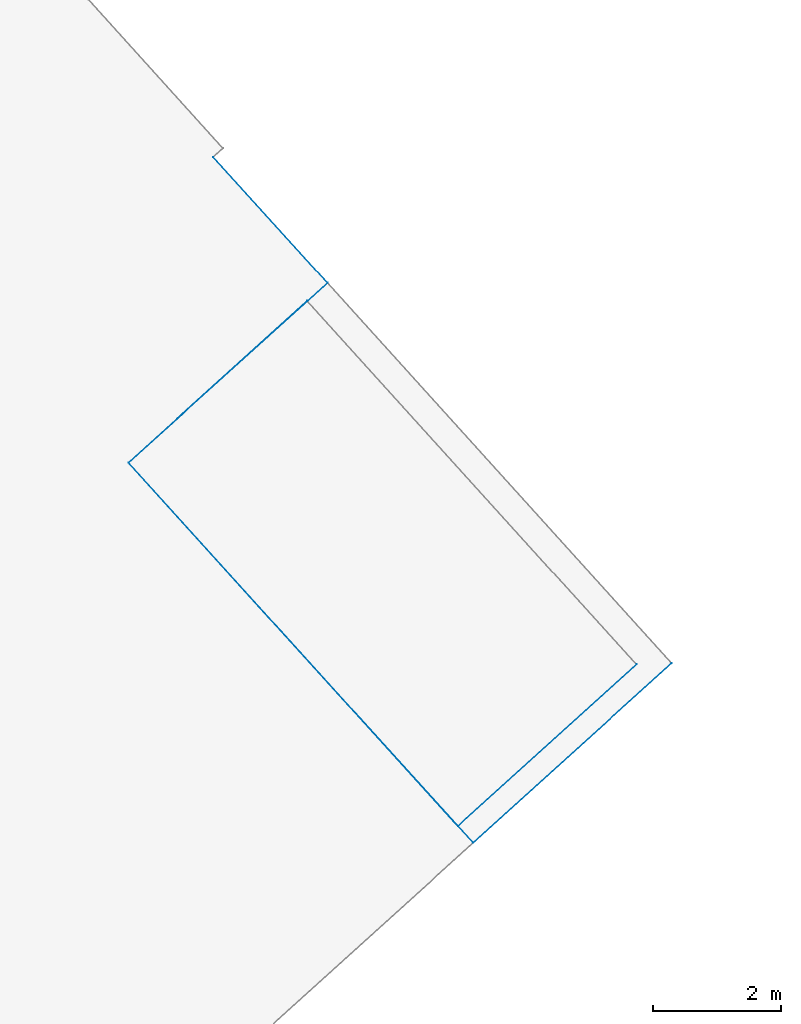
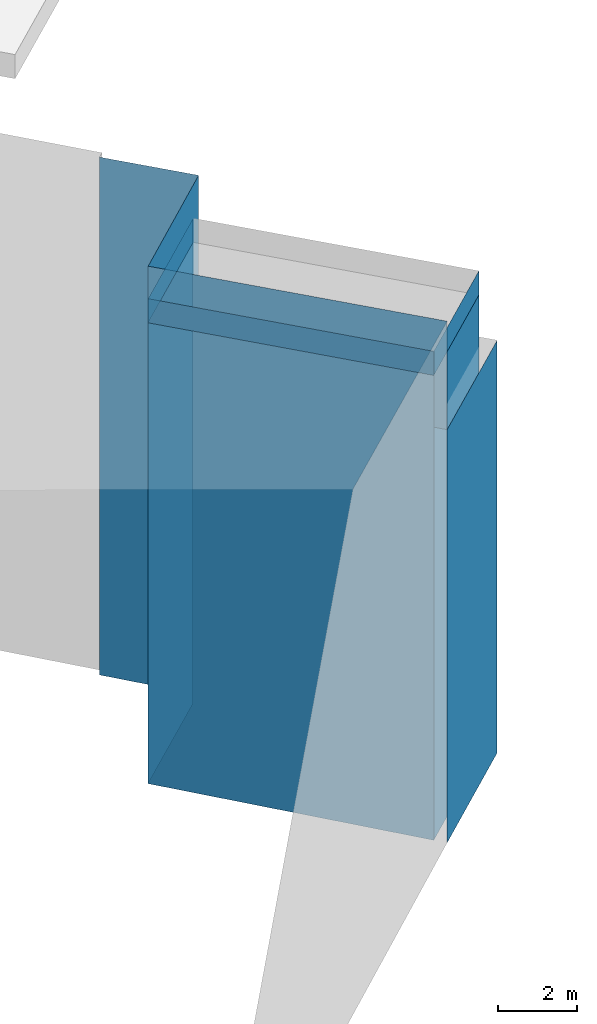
# Not in any storey, part 22 of 136: 13 walls.
"""IFC4 building model written with IfcOpenShell, lengths in metres."""

from ifc_helpers import new_model, entity, si_unit, converted_unit, origin, place, context, subcontext, project, spatial, face_set, surface_model, element, save


model = new_model("IFC4")

# Units and contexts
model_context = context("Model", 3, precision=1e-05, world=origin())
body_context = subcontext(model_context, "Body", "Model", "MODEL_VIEW")
ifc_project = project(units=[converted_unit("PLANEANGLEUNIT", "DEGREE", entity("IfcRatioMeasure", 0.0174532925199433), si_unit("PLANEANGLEUNIT", "RADIAN"), dimensions=[0, 0, 0, 0, 0, 0, 0]), si_unit("AREAUNIT", "SQUARE_METRE"), si_unit("LENGTHUNIT", "METRE")], contexts=[model_context])

# Site, building
site_placement = place(None, origin())
site = spatial("IfcSite", under=ifc_project, at=site_placement, Name="_site")
building_placement = place(site_placement, origin())
building = spatial("IfcBuilding", under=site, at=building_placement, Name="_building")

# Walls
wall_1_placement = place(building_placement, origin())
element("IfcWall", 1, at=wall_1_placement, inside=building, Name="Wall", PredefinedType="NOTDEFINED", context=body_context, shape_type="SurfaceModel", body=[
    surface_model("IfcFaceBasedSurfaceModel", [(74.16, 3.58, 52.67), (76.94, 6.101, 52.67), (76.94, 6.101, 53.42), (74.16, 3.58, 53.42)], [face_set([[[0, 1, 2, 3]]])]),
])
wall_2_placement = place(building_placement, origin())
element("IfcWall", 2, at=wall_2_placement, inside=building, Name="Wall", PredefinedType="NOTDEFINED", context=body_context, shape_type="SurfaceModel", body=[
    surface_model("IfcFaceBasedSurfaceModel", [(79.29, -2.08, 52.67), (74.16, 3.58, 52.67), (74.16, 3.58, 53.42), (79.29, -2.08, 53.42)], [face_set([[[0, 1, 2, 3]]])]),
])
wall_3_placement = place(building_placement, origin())
element("IfcWall", 3, at=wall_3_placement, inside=building, Name="Wall", PredefinedType="NOTDEFINED", context=body_context, shape_type="SurfaceModel", body=[
    surface_model("IfcFaceBasedSurfaceModel", [(82.07, 0.44, 52.67), (79.29, -2.08, 52.67), (79.29, -2.08, 53.42), (82.07, 0.44, 53.42)], [face_set([[[0, 1, 2, 3]]])]),
])
wall_4_placement = place(building_placement, origin())
element("IfcWall", 4, at=wall_4_placement, inside=building, Name="Wall", PredefinedType="NOTDEFINED", context=body_context, shape_type="SurfaceModel", body=[
    surface_model("IfcFaceBasedSurfaceModel", [(74.16, 3.58, 52.67), (76.94, 6.101, 52.67), (76.94, 6.101, 53.42), (74.16, 3.58, 53.42)], [face_set([[[0, 1, 2, 3]]])]),
])
wall_5_placement = place(building_placement, origin())
element("IfcWall", 5, at=wall_5_placement, inside=building, Name="Wall", PredefinedType="NOTDEFINED", context=body_context, shape_type="SurfaceModel", body=[
    surface_model("IfcFaceBasedSurfaceModel", [(79.29, -2.08, 52.67), (74.16, 3.58, 52.67), (74.16, 3.58, 53.42), (79.29, -2.08, 53.42)], [face_set([[[0, 1, 2, 3]]])]),
])
wall_6_placement = place(building_placement, origin())
element("IfcWall", 6, at=wall_6_placement, inside=building, Name="Wall", PredefinedType="NOTDEFINED", context=body_context, shape_type="SurfaceModel", body=[
    surface_model("IfcFaceBasedSurfaceModel", [(82.07, 0.44, 52.67), (79.29, -2.08, 52.67), (79.29, -2.08, 53.42), (82.07, 0.44, 53.42)], [face_set([[[0, 1, 2, 3]]])]),
])
wall_7_placement = place(building_placement, origin())
element("IfcWall", 7, at=wall_7_placement, inside=building, Name="Wall", PredefinedType="NOTDEFINED", context=body_context, shape_type="SurfaceModel", body=[
    surface_model("IfcFaceBasedSurfaceModel", [(74.16, 3.58, 52.67), (76.94, 6.101, 52.67), (76.94, 6.101, 38.339), (74.16, 3.58, 38.349)], [face_set([[[0, 1, 2, 3]]])]),
])
wall_8_placement = place(building_placement, origin())
element("IfcWall", 8, at=wall_8_placement, inside=building, Name="Wall", PredefinedType="NOTDEFINED", context=body_context, shape_type="SurfaceModel", body=[
    surface_model("IfcFaceBasedSurfaceModel", [(82.07, 0.44, 52.67), (79.29, -2.08, 52.67), (79.29, -2.08, 38.225), (82.07, 0.44, 38.239)], [face_set([[[0, 1, 2, 3]]])]),
])
wall_9_placement = place(building_placement, origin())
element("IfcWall", 9, at=wall_9_placement, inside=building, Name="Wall", PredefinedType="NOTDEFINED", context=body_context, shape_type="SurfaceModel", body=[
    surface_model("IfcFaceBasedSurfaceModel", [(82.62, 0.46, 51.06), (79.53, -2.34, 51.06), (79.53, -2.34, 38.219), (82.62, 0.46, 38.239)], [face_set([[[0, 1, 2, 3]]])]),
])
wall_10_placement = place(building_placement, origin())
element("IfcWall", 10, at=wall_10_placement, inside=building, Name="Wall", PredefinedType="NOTDEFINED", context=body_context, shape_type="SurfaceModel", body=[
    surface_model("IfcFaceBasedSurfaceModel", [(74.16, 3.58, 54.43), (79.53, -2.34, 54.43), (79.53, -2.34, 51.06), (74.16, 3.58, 51.06)], [face_set([[[0, 1, 2, 3]]])]),
])
wall_11_placement = place(building_placement, origin())
element("IfcWall", 11, at=wall_11_placement, inside=building, Name="Wall", PredefinedType="NOTDEFINED", context=body_context, shape_type="SurfaceModel", body=[
    surface_model("IfcFaceBasedSurfaceModel", [(77.26, 6.38, 54.47), (74.16, 3.58, 54.43), (74.16, 3.58, 51.06), (77.26, 6.38, 51.06)], [face_set([[[0, 1, 2, 3]]])]),
])
wall_12_placement = place(building_placement, origin())
element("IfcWall", 12, at=wall_12_placement, inside=building, Name="Wall", PredefinedType="NOTDEFINED", context=body_context, shape_type="SurfaceModel", body=[
    surface_model("IfcFaceBasedSurfaceModel", [(75.48, 8.34, 54.47), (77.26, 6.38, 54.47), (77.26, 6.38, 38.339), (75.48, 8.34, 38.379)], [face_set([[[0, 1, 2, 3]]])]),
])
wall_13_placement = place(building_placement, origin())
element("IfcWall", 13, at=wall_13_placement, inside=building, Name="Wall", PredefinedType="NOTDEFINED", context=body_context, shape_type="SurfaceModel", body=[
    surface_model("IfcFaceBasedSurfaceModel", [(79.29, -2.08, 52.67), (74.16, 3.58, 52.67), (74.16, 3.58, 38.349), (79.29, -2.08, 38.225)], [face_set([[[0, 1, 2, 3]]])]),
])

save(model, "model.ifc")
